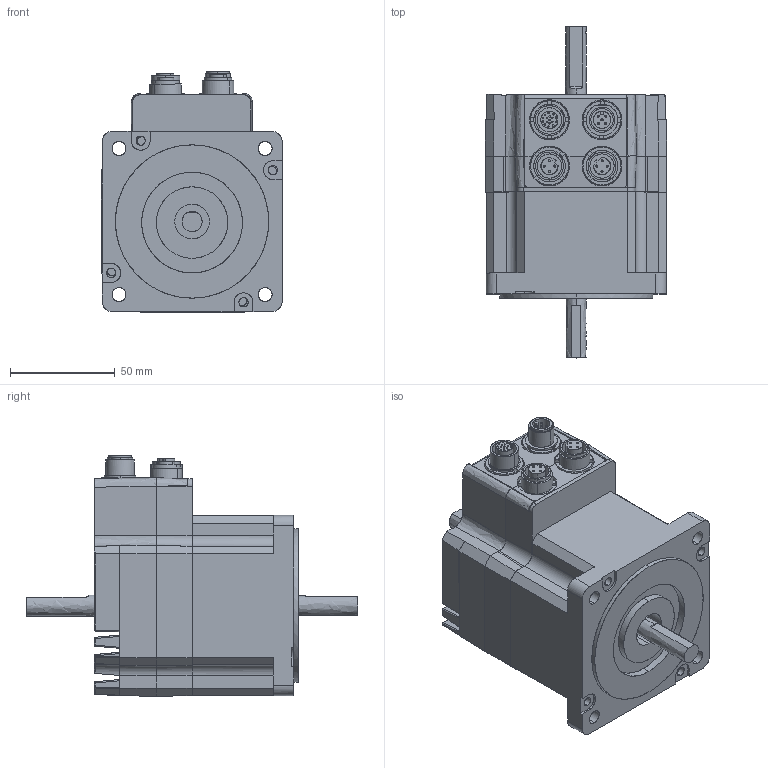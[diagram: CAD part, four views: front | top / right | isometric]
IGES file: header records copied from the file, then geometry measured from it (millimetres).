
Start section: Comment
Global section: file name: MIS340C13xxxx85.igs; native system:  By UGS Corp.; preprocessor: XPlus GENERIC/IGES 3.0; author: Author; organization: Title; date: 20130121.130656; units: millimetre
Bounding box: 86.49 x 158.1 x 114.59 mm (x, y, z)
Surface area: 108836.6 mm2 (no closed solid volume)
Topology: 0 solids, 0 shells, 1170 faces, 5717 edges, 5712 vertices
Faces by surface type: bspline 1170
